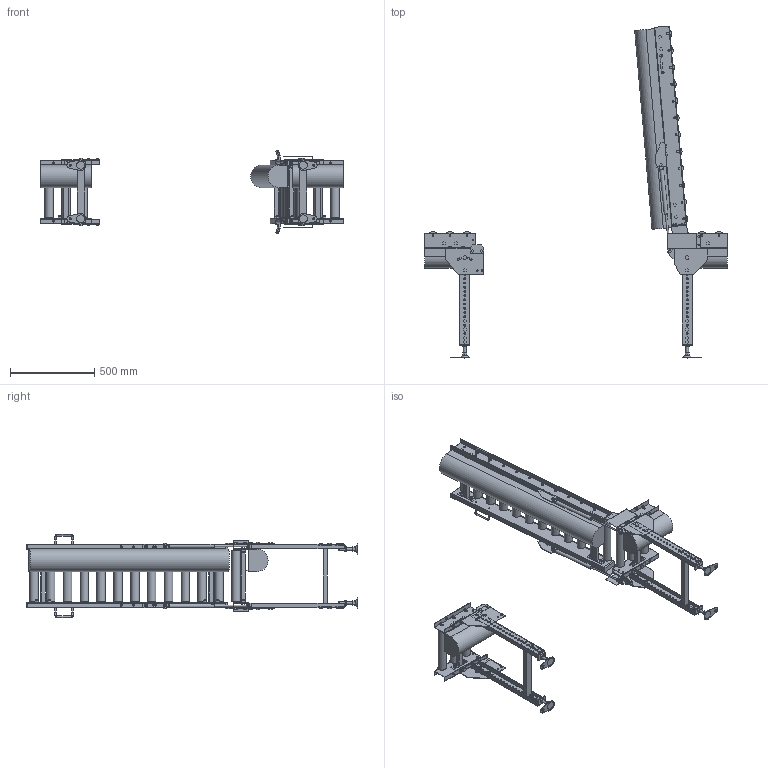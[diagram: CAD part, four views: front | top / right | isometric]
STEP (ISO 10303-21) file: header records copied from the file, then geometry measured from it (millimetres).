
FILE_DESCRIPTION( (''), '2;1');
FILE_NAME ('WEB-MCD50-315-100-120-L-HU.stp','2025-07-01T15:58:04',(''),(''),'spGate 20.6.2 (****-****-****-****)','','');
FILE_SCHEMA (('AUTOMOTIVE_DESIGN'));
Length unit declared in the file: millimetre
Products named in the file (24): WEB-MCD50-315-100-120-L-HU; TEMP_X_T-prt0; TEMP_X_T-prt1; TEMP_X_T-prt2; TEMP_X_T-prt3; TEMP_X_T-prt4; TEMP_X_T-prt5; TEMP_X_T-prt6; TEMP_X_T-prt7; TEMP_X_T-prt8; TEMP_X_T-prt9; TEMP_X_T-prt10; TEMP_X_T-prt11; TEMP_X_T-prt12; TEMP_X_T-prt13; TEMP_X_T-prt14; TEMP_X_T-prt15; TEMP_X_T-prt16; TEMP_X_T-prt17; TEMP_X_T-prt18; TEMP_X_T-prt19; TEMP_X_T-prt20; TEMP_X_T-prt21; TEMP_X_T-prt22
Assembly tree (23 placements, depth 2):
  WEB-MCD50-315-100-120-L-HU
    TEMP_X_T-prt0
    TEMP_X_T-prt1
    TEMP_X_T-prt2
    TEMP_X_T-prt3
    TEMP_X_T-prt4
    TEMP_X_T-prt5
    TEMP_X_T-prt6
    TEMP_X_T-prt7
    TEMP_X_T-prt8
    TEMP_X_T-prt9
    TEMP_X_T-prt10
    TEMP_X_T-prt11
    TEMP_X_T-prt12
    TEMP_X_T-prt13
    TEMP_X_T-prt14
    TEMP_X_T-prt15
    TEMP_X_T-prt16
    TEMP_X_T-prt17
    TEMP_X_T-prt18
    TEMP_X_T-prt19
    TEMP_X_T-prt20
    TEMP_X_T-prt21
    TEMP_X_T-prt22
Bounding box: 1791.65 x 1964.71 x 491.4 mm (x, y, z)
Volume: 43091317 mm3; surface area: 4405247.1 mm2
Topology: 23 solids, 49 shells, 2610 faces, 6613 edges, 4353 vertices
Faces by surface type: plane 2140, cylinder 452, bspline 18
Full cylindrical faces by diameter (mm): 8 x8, 8.5 x8, 9 x20, 10 x58, 10.5 x96, 11 x8, 12 x44, 13 x12, 14 x4, 15 x6, 15.4 x2, 15.7 x2, 16 x10, 17 x4, 18 x6, 18.4 x28, 18.5 x8, 21 x12, 22 x2, 50.8 x21
Entity records: 133932 total; most frequent: CARTESIAN_POINT 15089, DIRECTION 13384, ORIENTED_EDGE 13226, COLOUR_RGB 9246, PRESENTATION_STYLE_ASSIGNMENT 9246, STYLED_ITEM 9246, EDGE_CURVE 6613, DRAUGHTING_PRE_DEFINED_CURVE_FONT 6613
